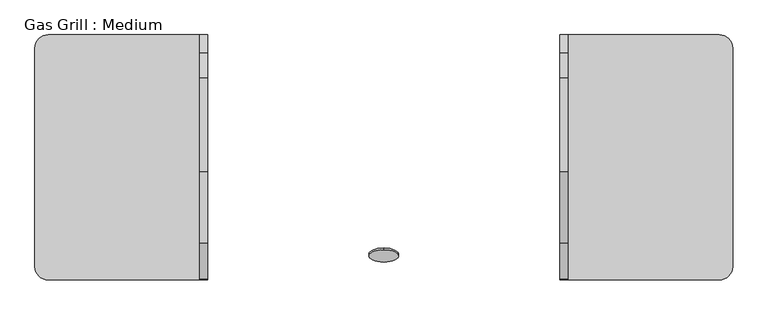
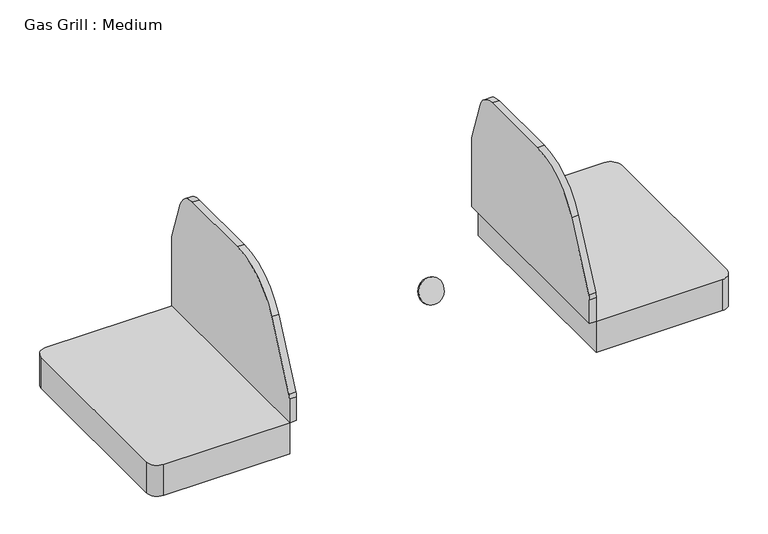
"""IFC4 building model written with IfcOpenShell, lengths in millimetres: proxy geometry, Gas Grill : Medium."""

from ifc_helpers import new_model, si_unit, point, frame, frame_2d, origin, place, context, project, spatial, polyline, circle_curve, trimmed, segment, composite_curve, outline, extrude, source, transform, mapped, element, save


def gas_grill_medium_64ab5653(model_context):
    return source(origin(), model_context, "Body", "SweptSolid", [
        extrude(outline(composite_curve([segment(polyline([(-355.6, 241.3), (-355.6, -231.775), (-647.7, -231.775)]), True, "CONTINUOUS"), segment(trimmed(circle_curve(frame_2d((-647.7, -206.375)), 25.4), [point((-647.7, -231.775))], [point((-673.1, -206.375))], False, "CARTESIAN"), True, "CONTINUOUS"), segment(polyline([(-673.1, -206.375), (-673.1, 215.9)]), True, "CONTINUOUS"), segment(trimmed(circle_curve(frame_2d((-647.7, 215.9)), 25.4), [point((-673.1, 215.9))], [point((-647.7, 241.3))], False, "CARTESIAN"), True, "CONTINUOUS"), segment(polyline([(-647.7, 241.3), (-355.6, 241.3)]), True, "CONTINUOUS")], self_intersect=False)), frame((0.0, 0.0, 787.4), z_axis=(0.0, 0.0, 1.0), x_axis=(1.0, 0.0, 0.0)), (0.0, 0.0, 1.0), 76.2),
        extrude(outline(composite_curve([segment(polyline([(647.7, -231.775), (355.6, -231.775), (355.6, 241.3), (647.7, 241.3)]), True, "CONTINUOUS"), segment(trimmed(circle_curve(frame_2d((647.7, 215.9)), 25.4), [point((647.7, 241.3))], [point((673.1, 215.9))], False, "CARTESIAN"), True, "CONTINUOUS"), segment(polyline([(673.1, 215.9), (673.1, -206.375)]), True, "CONTINUOUS"), segment(trimmed(circle_curve(frame_2d((647.7, -206.375)), 25.4), [point((673.1, -206.375))], [point((647.7, -231.775))], False, "CARTESIAN"), True, "CONTINUOUS")], self_intersect=False)), frame((0.0, 0.0, 787.4), z_axis=(0.0, 0.0, 1.0), x_axis=(1.0, 0.0, 0.0)), (0.0, 0.0, 1.0), 76.2),
        extrude(outline(composite_curve([segment(polyline([(241.3, 863.6), (-231.775, 863.6), (-231.775, 921.4689556)]), True, "CONTINUOUS"), segment(trimmed(circle_curve(frame_2d((-206.375, 921.4689556)), 25.4), [point((-231.775, 921.4689556))], [point((-229.3952178, 932.2034594))], False, "CARTESIAN"), True, "CONTINUOUS"), segment(polyline([(-229.3952178, 932.2034594), (-160.2867611, 1080.4070231)]), True, "CONTINUOUS"), segment(trimmed(circle_curve(frame_2d((-22.1654543, 1016.0)), 152.4), [point((-160.2867611, 1080.4070231))], [point((-22.1654543, 1168.4))], False, "CARTESIAN"), True, "CONTINUOUS"), segment(polyline([(-22.1654543, 1168.4), (158.4543579, 1168.4)]), True, "CONTINUOUS"), segment(trimmed(circle_curve(frame_2d((158.4543579, 1117.6)), 50.8), [point((158.4543579, 1168.4))], [point((206.4867016, 1134.1388622))], False, "CARTESIAN"), True, "CONTINUOUS"), segment(polyline([(206.4867016, 1134.1388622), (241.3, 1033.0337022), (241.3, 863.6)]), True, "CONTINUOUS")], self_intersect=False)), frame((-355.6, 0.0, 0.0), z_axis=(1.0, 0.0, 0.0), x_axis=(0.0, 1.0, 0.0)), (0.0, 0.0, 1.0), 15.875),
        extrude(outline(composite_curve([segment(polyline([(241.3, 863.6), (-231.775, 863.6), (-231.775, 921.4689556)]), True, "CONTINUOUS"), segment(trimmed(circle_curve(frame_2d((-206.375, 921.4689556)), 25.4), [point((-231.775, 921.4689556))], [point((-229.3952178, 932.2034594))], False, "CARTESIAN"), True, "CONTINUOUS"), segment(polyline([(-229.3952178, 932.2034594), (-160.2867611, 1080.4070231)]), True, "CONTINUOUS"), segment(trimmed(circle_curve(frame_2d((-22.1654543, 1016.0)), 152.4), [point((-160.2867611, 1080.4070231))], [point((-22.1654543, 1168.4))], False, "CARTESIAN"), True, "CONTINUOUS"), segment(polyline([(-22.1654543, 1168.4), (158.4543579, 1168.4)]), True, "CONTINUOUS"), segment(trimmed(circle_curve(frame_2d((158.4543579, 1117.6)), 50.8), [point((158.4543579, 1168.4))], [point((206.4867016, 1134.1388622))], False, "CARTESIAN"), True, "CONTINUOUS"), segment(polyline([(206.4867016, 1134.1388622), (241.3, 1033.0337022), (241.3, 863.6)]), True, "CONTINUOUS")], self_intersect=False)), frame((339.725, 0.0, 0.0), z_axis=(1.0, 0.0, 0.0), x_axis=(0.0, 1.0, 0.0)), (0.0, 0.0, 1.0), 15.875),
        extrude(outline(composite_curve([segment(trimmed(circle_curve(frame_2d((0.0, -28.5750001)), 28.575), [point((0.0, -57.15))], [point((0.0, 0.0))], False, "CARTESIAN"), True, "CONTINUOUS"), segment(trimmed(circle_curve(frame_2d((0.0, -28.5750001)), 28.575), [point((0.0, 0.0))], [point((0.0, -57.15))], False, "CARTESIAN"), True, "CONTINUOUS")], self_intersect=False)), frame((0.0, -170.4235086, 1058.668698), z_axis=(0.0, -0.9063077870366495, 0.42261826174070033), x_axis=(1.0, 0.0, 0.0)), (0.0, 0.0, 1.0), 3.302),
    ])


if __name__ == "__main__":
    model = new_model("IFC4")
    model_context = context("Model", 3, world=origin())
    ifc_project = project(units=[si_unit("LENGTHUNIT", "METRE", prefix="MILLI")], contexts=[model_context])
    site = spatial("IfcSite", under=ifc_project)
    building = spatial("IfcBuilding", under=site)
    placement = place(None, origin())
    gas_grill_medium_shape = gas_grill_medium_64ab5653(model_context)
    element("IfcBuildingElementProxy", 1, Name="Gas Grill : Medium", ObjectType="Gas Grill : Medium", at=placement, inside=building, context=model_context, shape_type="MappedRepresentation", body=[
        mapped(gas_grill_medium_shape, transform((0.0, 0.0, 0.0), x_axis=(1.0, 0.0, 0.0), y_axis=(0.0, 1.0, 0.0), z_axis=(0.0, 0.0, 1.0))),
    ])
    save(model, "model.ifc")
